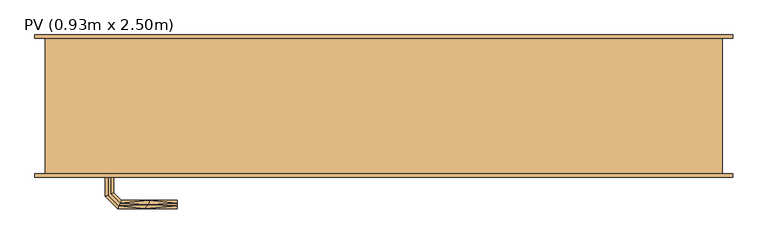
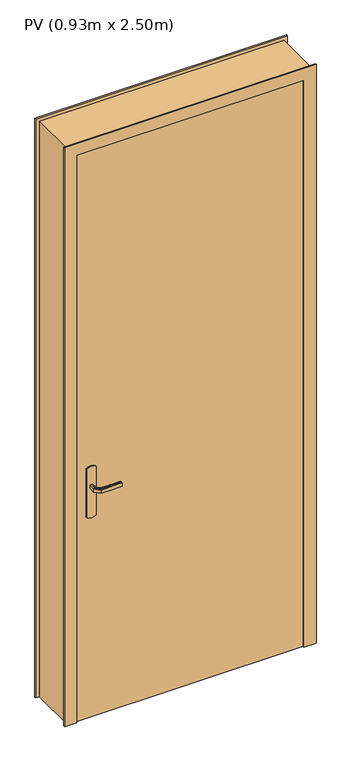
"""IFC4 building model written with IfcOpenShell, lengths in millimetres: door geometry, PV (0.93m x 2.50m)."""

from ifc_helpers import new_model, si_unit, frame, origin, origin_with_axes, place, context, project, spatial, polyline, outline, extrude, faceted_brep, source, transform, mapped, element, save


def pv_0_93m_x_2_50m_dabd69bd(model_context):
    return source(origin(), model_context, "Body", "SolidModel", [
        extrude(outline(polyline([(866.0039831, 105.3527618), (870.0, 115.0), (1080.0, 115.0), (1083.9960169, 105.3527618), (1085.3589838, 95.0), (1083.9960169, 84.6472382), (1080.0, 75.0), (870.0, 75.0), (866.0039831, 84.6472382), (864.6410162, 95.0), (866.0039831, 105.3527618)])), frame((0.0, -5.0, 0.0), z_axis=(0.0, 1.0, 0.0), x_axis=(0.0, 0.0, 1.0)), (0.0, 0.0, 1.0), 5.0),
        faceted_brep([(0.0, 200.0, 0.0), (-15.0, 200.0, 0.0), (-15.0, 205.0, 0.0), (50.0, 205.0, 0.0), (50.0, 40.0, 0.0), (35.0, 40.0, 0.0), (35.0, -5.0, 0.0), (-15.0, -5.0, 0.0), (-15.0, 0.0, 0.0), (0.0, 0.0, 0.0), (0.0, 200.0, 2485.0), (1000.0, 200.0, 2485.0), (1000.0, 200.0, 0.0), (1015.0, 200.0, 0.0), (1015.0, 200.0, 2500.0), (-15.0, 200.0, 2500.0), (-15.0, 205.0, 2500.0), (1015.0, 205.0, 2500.0), (1015.0, 205.0, 0.0), (950.0, 205.0, 0.0), (950.0, 205.0, 2435.0), (50.0, 205.0, 2435.0), (50.0, 40.0, 2435.0), (950.0, 40.0, 2435.0), (950.0, 40.0, 0.0), (965.0, 40.0, 0.0), (965.0, 40.0, 2450.0), (35.0, 40.0, 2450.0), (35.0, -5.0, 2450.0), (965.0, -5.0, 2450.0), (965.0, -5.0, 0.0), (1015.0, -5.0, 0.0), (1015.0, -5.0, 2500.0), (-15.0, -5.0, 2500.0), (-15.0, 0.0, 2500.0), (1015.0, 0.0, 2500.0), (1015.0, 0.0, 0.0), (1000.0, 0.0, 0.0), (1000.0, 0.0, 2485.0), (0.0, 0.0, 2485.0)], [[[0, 1, 2, 3, 4, 5, 6, 7, 8, 9]], [[1, 0, 10, 11, 12, 13, 14, 15]], [[2, 1, 15, 16]], [[3, 2, 16, 17, 18, 19, 20, 21]], [[3, 21, 22, 4]], [[5, 4, 22, 23, 24, 25, 26, 27]], [[5, 27, 28, 6]], [[7, 6, 28, 29, 30, 31, 32, 33]], [[8, 7, 33, 34]], [[9, 8, 34, 35, 36, 37, 38, 39]], [[0, 9, 39, 10]], [[11, 38, 37, 12]], [[12, 37, 36, 31, 30, 25, 24, 19, 18, 13]], [[17, 14, 13, 18]], [[23, 20, 19, 24]], [[29, 26, 25, 30]], [[35, 32, 31, 36]], [[16, 15, 14, 17]], [[22, 21, 20, 23]], [[28, 27, 26, 29]], [[34, 33, 32, 35]], [[10, 39, 38, 11]]]),
        faceted_brep([(92.9747013, -5.0, 1007.7804408), (97.0252987, -5.0, 1007.7804408), (101.0, -5.0, 1007.0), (101.0, -5.0, 993.0), (97.0252987, -5.0, 992.2195592), (92.9747013, -5.0, 992.2195592), (89.0, -5.0, 993.0), (89.0, -5.0, 1007.0), (89.0, -32.6509507, 1007.0), (92.9747013, -31.0045755, 1007.7804408), (109.0235852, -47.0534593, 1007.7804408), (110.7013975, -43.002862, 1007.7804408), (97.0252987, -29.3267632, 1007.7804408), (101.0, -27.680388, 1007.0), (101.0, -27.680388, 993.0), (97.0252987, -29.3267632, 992.2195592), (110.7013975, -43.002862, 992.2195592), (109.0235852, -47.0534593, 992.2195592), (92.9747013, -31.0045755, 992.2195592), (89.0, -32.6509507, 993.0), (107.37721, -51.0281607, 1007.0), (112.3477727, -39.0281607, 1007.0), (112.3477727, -39.0281607, 993.0), (107.37721, -51.0281607, 993.0), (195.0186406, -51.0281607, 993.0), (195.0186406, -47.0534593, 992.2195592), (195.0186406, -43.002862, 992.2195592), (195.0186406, -39.0281607, 993.0), (195.0186406, -39.0281607, 1007.0), (195.0186406, -43.002862, 1007.7804408), (195.0186406, -47.0534593, 1007.7804408), (195.0186406, -51.0281607, 1007.0), (147.3076972, -51.0281607, 1007.0), (152.8600191, -45.0281607, 1007.8786868), (153.6832067, -39.0281607, 1007.0), (153.6832067, -39.0281607, 993.0), (152.8600189, -45.0281608, 992.1213132), (147.3077002, -51.0281607, 993.0)], [[[0, 1, 2, 3, 4, 5, 6, 7]], [[8, 9, 0, 7]], [[9, 10, 11, 12, 1, 0]], [[12, 13, 2, 1]], [[3, 2, 13, 14]], [[14, 15, 4, 3]], [[15, 16, 17, 18, 5, 4]], [[18, 19, 6, 5]], [[7, 6, 19, 8]], [[20, 10, 9, 8]], [[11, 21, 13, 12]], [[14, 13, 21, 22]], [[22, 16, 15, 14]], [[17, 23, 19, 18]], [[8, 19, 23, 20]], [[24, 25, 26, 27, 28, 29, 30, 31]], [[32, 30, 33]], [[31, 30, 32]], [[10, 20, 32]], [[33, 34, 11]], [[21, 11, 34]], [[34, 29, 28]], [[30, 29, 33]], [[29, 34, 33]], [[10, 32, 33]], [[10, 33, 11]], [[22, 21, 34, 28, 27, 35]], [[35, 26, 36]], [[37, 36, 25]], [[22, 35, 16]], [[35, 27, 26]], [[24, 37, 25]], [[23, 17, 37]], [[37, 17, 36]], [[17, 16, 36]], [[16, 35, 36]], [[25, 36, 26]], [[20, 23, 37, 24, 31, 32]]]),
        faceted_brep([(92.9747013, 45.0, 1007.7804408), (89.0, 45.0, 1007.0), (89.0, 45.0, 993.0), (92.9747013, 45.0, 992.2195592), (97.0252987, 45.0, 992.2195592), (101.0, 45.0, 993.0), (101.0, 45.0, 1007.0), (97.0252987, 45.0, 1007.7804408), (101.0, 67.4852045, 993.0), (101.0, 67.4852045, 1007.0), (97.0252987, 69.1315797, 1007.7804408), (110.8389062, 82.9451872, 1007.7804408), (109.1610938, 86.9957845, 1007.7804408), (92.9747013, 70.8093921, 1007.7804408), (89.0, 72.4557673, 1007.0), (89.0, 72.4557673, 993.0), (92.9747013, 70.8093921, 992.2195592), (109.1610938, 86.9957845, 992.2195592), (110.8389062, 82.9451872, 992.2195592), (97.0252987, 69.1315797, 992.2195592), (112.4852814, 78.9704859, 993.0), (112.4852814, 78.9704859, 1007.0), (107.5147186, 90.9704859, 1007.0), (107.5147186, 90.9704859, 993.0), (195.0457837, 78.9704859, 993.0), (195.0457837, 82.9451872, 992.2195592), (195.0457837, 86.9957845, 992.2195592), (195.0457837, 90.9704859, 993.0), (195.0457837, 90.9704859, 1007.0), (195.0457837, 86.9957845, 1007.7804408), (195.0457837, 82.9451872, 1007.7804408), (195.0457837, 78.9704859, 1007.0), (153.7655206, 78.9704859, 993.0), (153.7655325, 78.9704859, 1007.0), (152.9423449, 84.9704859, 1007.8786868), (147.4452058, 90.9704859, 1007.0), (147.4452043, 90.9704859, 993.0), (152.9423451, 84.9704858, 992.1213132)], [[[0, 1, 2, 3, 4, 5, 6, 7]], [[6, 5, 8, 9]], [[9, 10, 7, 6]], [[10, 11, 12, 13, 0, 7]], [[13, 14, 1, 0]], [[2, 1, 14, 15]], [[15, 16, 3, 2]], [[16, 17, 18, 19, 4, 3]], [[19, 8, 5, 4]], [[9, 8, 20, 21]], [[21, 11, 10, 9]], [[12, 22, 14, 13]], [[15, 14, 22, 23]], [[23, 17, 16, 15]], [[18, 20, 8, 19]], [[24, 25, 26, 27, 28, 29, 30, 31]], [[21, 20, 32, 24, 31, 33]], [[33, 30, 34]], [[35, 34, 29]], [[21, 33, 11]], [[33, 31, 30]], [[28, 35, 29]], [[22, 12, 35]], [[35, 12, 34]], [[12, 11, 34]], [[11, 33, 34]], [[29, 34, 30]], [[22, 35, 28, 27, 36, 23]], [[36, 26, 37]], [[27, 26, 36]], [[17, 23, 36]], [[37, 32, 18]], [[20, 18, 32]], [[32, 25, 24]], [[26, 25, 37]], [[25, 32, 37]], [[17, 36, 37]], [[17, 37, 18]]]),
        extrude(outline(polyline([(866.0039831, 105.3527618), (870.0, 115.0), (1080.0, 115.0), (1083.9960169, 105.3527618), (1085.3589838, 95.0), (1083.9960169, 84.6472382), (1080.0, 75.0), (870.0, 75.0), (866.0039831, 84.6472382), (864.6410162, 95.0), (866.0039831, 105.3527618)])), frame((0.0, 40.0, 0.0), z_axis=(0.0, 1.0, 0.0), x_axis=(0.0, 0.0, 1.0)), (0.0, 0.0, 1.0), 5.0),
        extrude(outline(polyline([(35.0, 40.0), (965.0, 40.0), (965.0, 0.0), (35.0, 0.0), (35.0, 40.0)])), origin_with_axes(), (0.0, 0.0, 1.0), 2450.0),
    ])


if __name__ == "__main__":
    model = new_model("IFC4")
    model_context = context("Model", 3, world=origin())
    ifc_project = project(units=[si_unit("LENGTHUNIT", "METRE", prefix="MILLI")], contexts=[model_context])
    site = spatial("IfcSite", under=ifc_project)
    building = spatial("IfcBuilding", under=site)
    placement = place(None, origin())
    pv_0_93m_x_2_50m_shape = pv_0_93m_x_2_50m_dabd69bd(model_context)
    element("IfcDoor", 1, ObjectType="PV (0.93m x 2.50m)", at=placement, inside=building, context=model_context, shape_type="MappedRepresentation", body=[
        mapped(pv_0_93m_x_2_50m_shape, transform((0.0, 0.0, 0.0), x_axis=(1.0, 0.0, 0.0), y_axis=(0.0, 1.0, 0.0), z_axis=(0.0, 0.0, 1.0))),
    ])
    save(model, "model.ifc")
